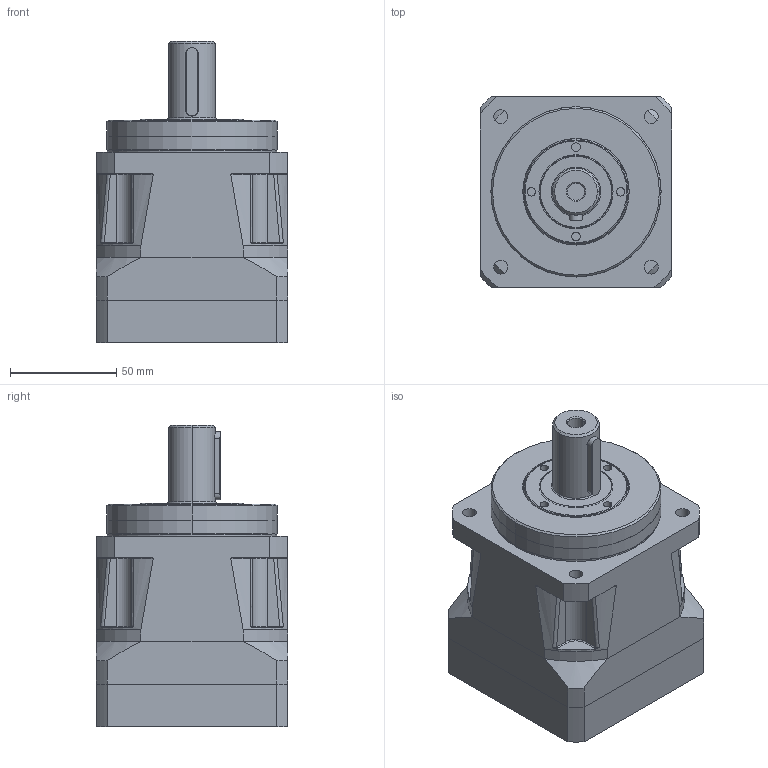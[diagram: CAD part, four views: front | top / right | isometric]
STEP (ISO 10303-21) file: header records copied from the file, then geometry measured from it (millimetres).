
FILE_DESCRIPTION((''),'2;1');
FILE_NAME('PS90-XXX-000-X2_ASM','2009-03-24T',('ata7311'),(''),'PRO/ENGINEER BY PARAMETRIC TECHNOLOGY CORPORATION, 2006300','PRO/ENGINEER BY PARAMETRIC TECHNOLOGY CORPORATION, 2006300','');
FILE_SCHEMA(('CONFIG_CONTROL_DESIGN'));
Products named in the file (15): 13325XXX; 13324000; HD202-0035; 10087124; 13320XXX_ASM; 13329000; 13330XXX; 13120001; 12292000; M5X20; 13322XXX_ASM; M5X16; 13134000; M5X25; PS90-XXX-000-X2_ASM
Assembly tree (21 placements, depth 3):
  PS90-XXX-000-X2_ASM
    13320XXX_ASM
      13325XXX
      13324000
      HD202-0035
      10087124
    13322XXX_ASM
      13329000
      13330XXX
      13120001
      12292000  x2
      M5X20
    M5X16  x4
    13134000
    M5X25  x4
Bounding box: 90 x 90 x 141.5 mm (x, y, z)
Volume: 511196.4 mm3; surface area: 138940.1 mm2
Topology: 19 solids, 19 shells, 580 faces, 1369 edges, 884 vertices
Faces by surface type: cylinder 247, plane 233, cone 52, torus 24, bspline 24
Entity records: 15954 total; most frequent: CARTESIAN_POINT 4411, DIRECTION 2495, ORIENTED_EDGE 2258, EDGE_CURVE 1129, AXIS2_PLACEMENT_3D 1011, VERTEX_POINT 726, EDGE_LOOP 553, CIRCLE 521
